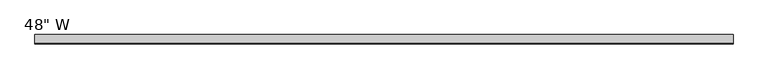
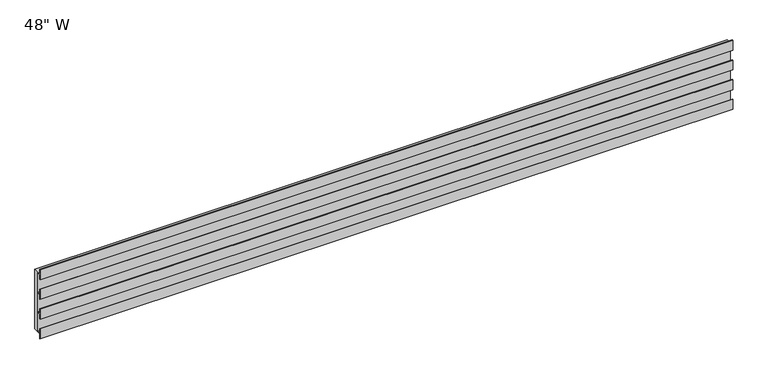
"""IFC4 building model written with IfcOpenShell, lengths in millimetres: furniture geometry."""

from ifc_helpers import new_model, si_unit, frame, origin, place, context, project, spatial, polyline, outline, extrude, source, transform, mapped, element, save


def furniture_a22443c0(model_context):
    return source(origin(), model_context, "Body", "SweptSolid", [
        extrude(outline(polyline([(-16.0203256, 1073.3107033), (-15.2117593, 1073.3107033), (-15.2117593, 1063.9425436), (0.0, 1063.9425436), (0.0, 954.9765203), (-15.2400002, 954.9765203), (-15.2400002, 945.7690155), (-16.0203256, 945.7690155), (-16.0203256, 964.0969916), (-15.2400002, 964.0969916), (-15.2400002, 955.6974055), (-9.0487501, 955.6974055), (-9.0487501, 990.5641448), (-15.2400002, 990.5641448), (-15.2400002, 982.1700737), (-16.0203256, 982.1700737), (-16.0203256, 1000.4643901), (-15.2400002, 1000.4643901), (-15.2400002, 991.2985039), (-9.0487501, 991.2985039), (-9.0487501, 1026.8861283), (-15.2400002, 1026.8861283), (-15.2400002, 1018.4253753), (-16.0203256, 1018.4253753), (-16.0203256, 1036.7524902), (-15.2400002, 1036.7524902), (-15.2400002, 1027.6204874), (-9.0487501, 1027.6204874), (-9.0487501, 1063.0360019), (-15.2117593, 1063.0360019), (-15.2117593, 1054.7394742), (-16.0203256, 1054.7394742), (-16.0203256, 1073.3107033)])), frame((-604.04375, 0.0, 0.0), z_axis=(1.0, 0.0, 0.0), x_axis=(0.0, 1.0, 0.0)), (0.0, 0.0, 1.0), 1208.0875),
    ])


if __name__ == "__main__":
    model = new_model("IFC4")
    model_context = context("Model", 3, world=origin())
    ifc_project = project(units=[si_unit("LENGTHUNIT", "METRE", prefix="MILLI")], contexts=[model_context])
    site = spatial("IfcSite", under=ifc_project)
    building = spatial("IfcBuilding", under=site)
    placement = place(None, origin())
    furniture_shape = furniture_a22443c0(model_context)
    element("IfcFurniture", 1, ObjectType="HON - Abound - Systems Paper Management Support Bars : 48\" W", at=placement, inside=building, context=model_context, shape_type="MappedRepresentation", body=[
        mapped(furniture_shape, transform((0.0, 0.0, 0.0), x_axis=(1.0, 0.0, 0.0), y_axis=(0.0, 1.0, 0.0), z_axis=(0.0, 0.0, 1.0))),
    ])
    save(model, "model.ifc")
